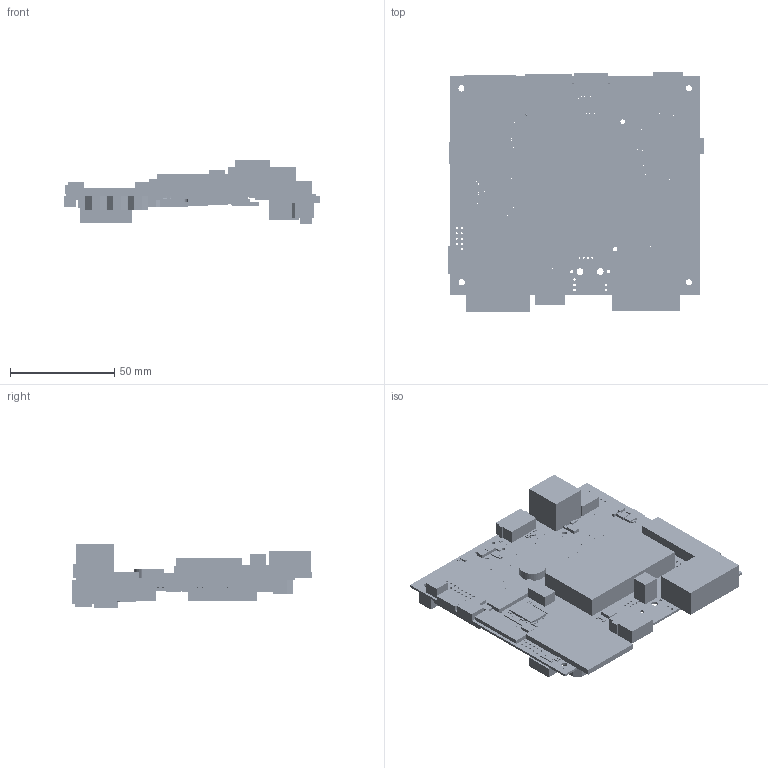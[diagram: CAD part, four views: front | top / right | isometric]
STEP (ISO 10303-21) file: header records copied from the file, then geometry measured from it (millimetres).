
FILE_DESCRIPTION (( 'STEP AP203' ), '1' );
FILE_NAME ('MX6-ASSLY.STEP', '2012-09-25T13:15:22', ( 'gaby' ), ( '' ), 'SwSTEP 2.0', 'SolidWorks 2011', '' );
FILE_SCHEMA (( 'CONFIG_CONTROL_DESIGN' ));
Products named in the file (3): MX6-ASSLY; VAR-SOM-MX6_v1.02_r02; MX6-CUST_V1_12sep_ar
Assembly tree (2 placements, depth 2):
  MX6-ASSLY
    MX6-CUST_V1_12sep_ar
    VAR-SOM-MX6_v1.02_r02
Bounding box: 122.69 x 114.79 x 30.43 mm (x, y, z)
Volume: 95832.2 mm3; surface area: 87180.5 mm2
Topology: 745 solids, 745 shells, 12194 faces, 30100 edges, 19198 vertices
Faces by surface type: plane 8672, cylinder 3518, cone 4
Entity records: 361327 total; most frequent: DIRECTION 61938, CARTESIAN_POINT 61509, ORIENTED_EDGE 60200, EDGE_CURVE 30100, LINE 22652, VECTOR 22652, AXIS2_PLACEMENT_3D 19643, VERTEX_POINT 19198
